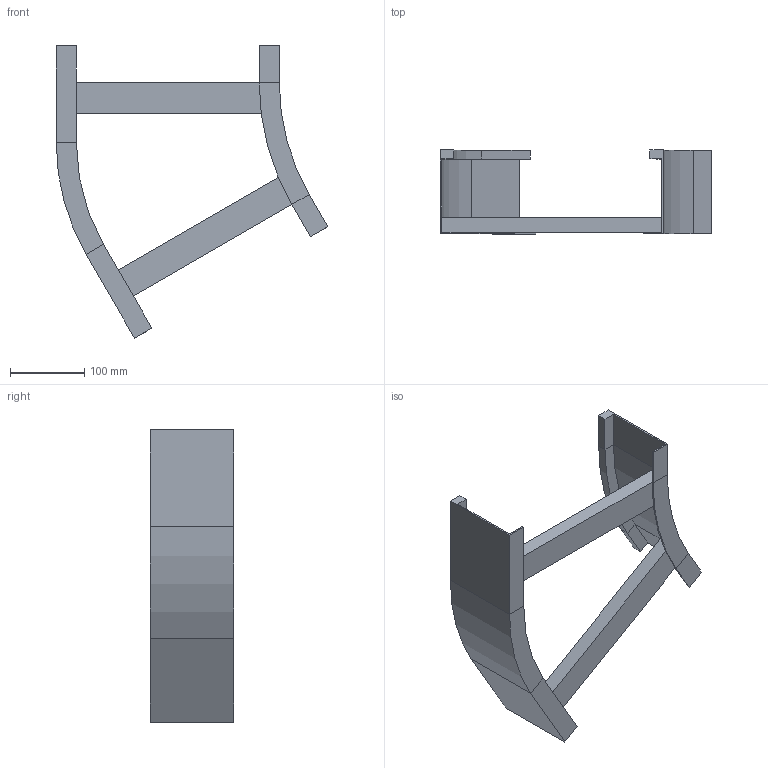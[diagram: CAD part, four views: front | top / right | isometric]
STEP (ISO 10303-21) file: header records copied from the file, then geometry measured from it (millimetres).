
FILE_DESCRIPTION (( 'STEP AP214' ), '1' );
FILE_NAME ('B2_12B3J300.step', '2025-02-21T15:09:27', ( '' ), ( '' ), 'SwSTEP 2.0', 'SolidWorks 2023', '' );
FILE_SCHEMA (( 'AUTOMOTIVE_DESIGN' ));
Length unit declared in the file: millimetre
Products named in the file (4): B2_LONGH.INTERNO 30°_H112.5_R300; B2_LONGH.ESTERNO 30°_H112.5_R300+300; B2_12B3J300; TRAVERSINO_300
Assembly tree (4 placements, depth 2):
  B2_12B3J300
    B2_LONGH.INTERNO 30°_H112.5_R300
    B2_LONGH.ESTERNO 30°_H112.5_R300+300
    TRAVERSINO_300  x2
Bounding box: 365.19 x 112.5 x 393.3 mm (x, y, z)
Volume: 794711.7 mm3; surface area: 286642.9 mm2
Topology: 4 solids, 4 shells, 64 faces, 136 edges, 80 vertices
Faces by surface type: plane 56, cylinder 8
Entity records: 1637 total; most frequent: DIRECTION 270, CARTESIAN_POINT 261, ORIENTED_EDGE 248, EDGE_CURVE 124, LINE 108, VECTOR 108, AXIS2_PLACEMENT_3D 81, VERTEX_POINT 72
